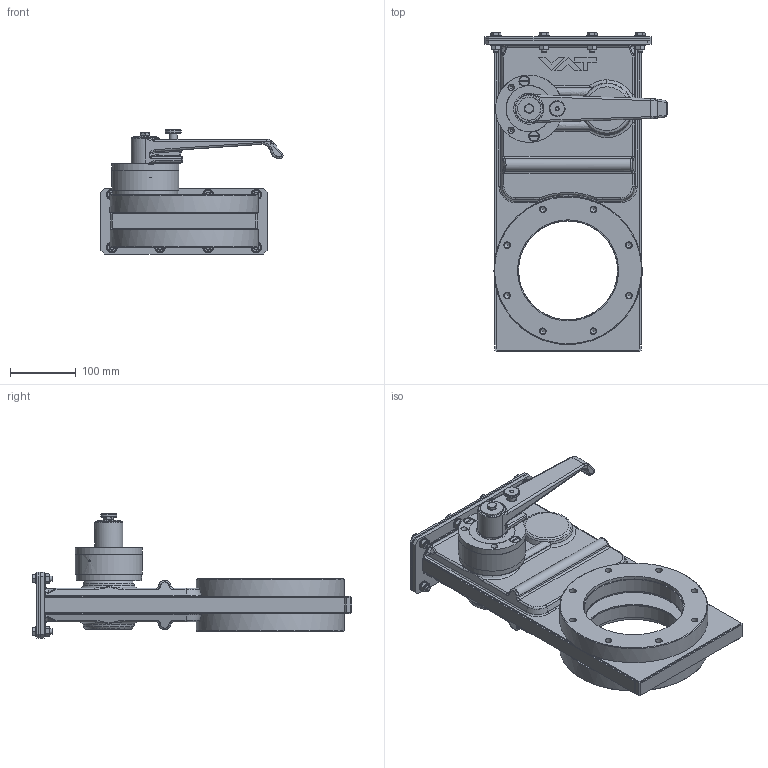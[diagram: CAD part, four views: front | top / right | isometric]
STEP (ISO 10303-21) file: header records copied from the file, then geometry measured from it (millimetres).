
FILE_DESCRIPTION((''),'2;1');
FILE_NAME('O:\MT\MT\Systeme\Cad\Datenexporte\www_vat_ch\203458.stp','2005-07-27T07:50:58',('User'),('SDRC'),'I-DEAS Master Series 9','UNIX','Yes');
FILE_SCHEMA(('CONFIG_CONTROL_DESIGN'));
Length unit declared in the file: millimetre
Assembly tree (56 placements, depth 0):
Bounding box: 276.09 x 483.9 x 188.07 mm (x, y, z)
Volume: 2490683.4 mm3; surface area: 892339.7 mm2
Topology: 75 solids, 75 shells, 1150 faces, 2581 edges, 1631 vertices
Faces by surface type: bspline 1150
Entity records: 34424 total; most frequent: CARTESIAN_POINT 19216, ORIENTED_EDGE 3600, EDGE_CURVE 1800, VERTEX_POINT 1135, EDGE_LOOP 913, FACE_OUTER_BOUND 760, ADVANCED_FACE 760, B_SPLINE_CURVE_WITH_KNOTS 728
